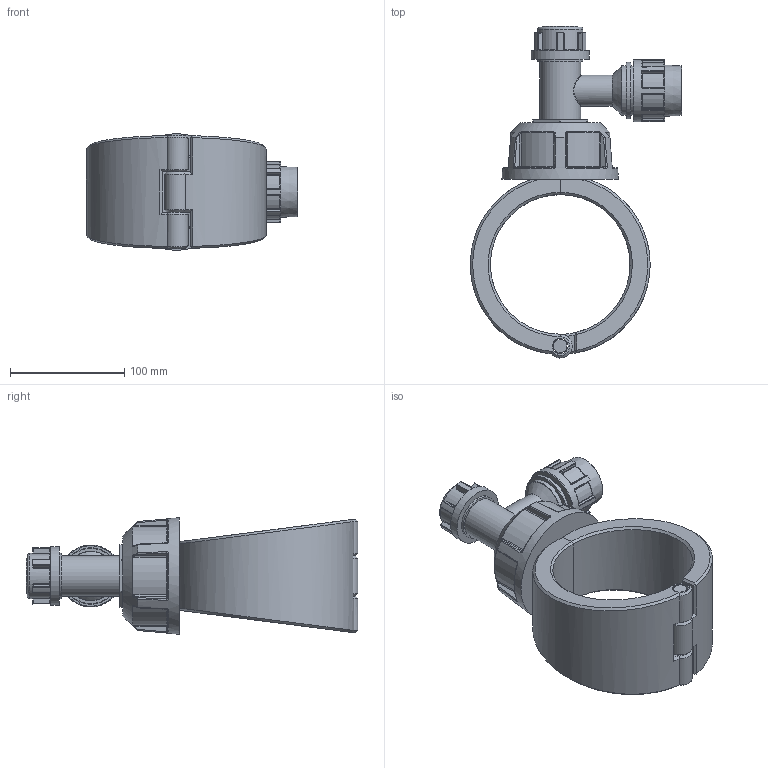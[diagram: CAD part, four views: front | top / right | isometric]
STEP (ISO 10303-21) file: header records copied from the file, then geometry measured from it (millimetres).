
FILE_DESCRIPTION(/* description */ ('Plassadle Tapper 122x25'),/* implementation_level */ '2;1');
FILE_NAME(/* name */ 'C:\Users\comp2\Dropbox\99-16-3568-Processing\Mechanical Fittings\16310\stp\163100125025_1631061250250A.stp',/* time_stamp */ '2022-02-03T11:57:58+00:00',/* author */ ('comp2'),/* organization */ (''),/* preprocessor_version */ 'ST-DEVELOPER v17.2',/* originating_system */ 'Autodesk Inventor 2019',/* authorisation */ '');
FILE_SCHEMA (('AUTOMOTIVE_DESIGN { 1 0 10303 214 3 1 1 }'));
Length unit declared in the file: millimetre
Products named in the file (1): 163100125025_1631061250250A
Bounding box: 184.45 x 290 x 102 mm (x, y, z)
Volume: 1116506.6 mm3; surface area: 154147.1 mm2
Topology: 4 solids, 4 shells, 519 faces, 1253 edges, 754 vertices
Faces by surface type: cylinder 184, plane 109, bspline 87, torus 83, sphere 40, cone 16
Full cylindrical faces by diameter (mm): 11.64 x1, 13.64 x3, 25 x1, 27 x1, 30.6 x1, 35.7 x1, 39.7 x2, 43.2 x2, 49.378 x1, 51 x1, 54 x1
Entity records: 18722 total; most frequent: CARTESIAN_POINT 6969, ORIENTED_EDGE 2508, DIRECTION 2426, EDGE_CURVE 1254, AXIS2_PLACEMENT_3D 1028, VERTEX_POINT 755, CIRCLE 563, EDGE_LOOP 537
